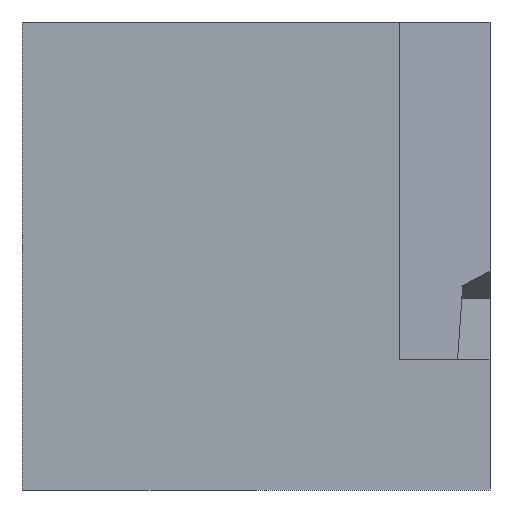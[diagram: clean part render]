
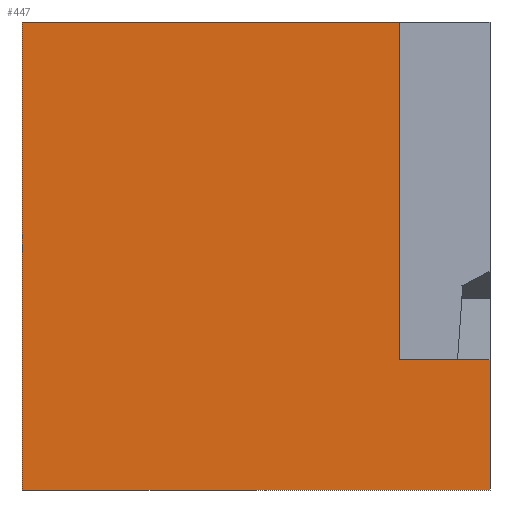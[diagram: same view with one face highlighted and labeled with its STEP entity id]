
A CAD part, left-side view. The second image highlights one B-rep face of the part: STEP entity #447.
In plain terms, the highlighted planar face has unit normal (-1, 0, 0).
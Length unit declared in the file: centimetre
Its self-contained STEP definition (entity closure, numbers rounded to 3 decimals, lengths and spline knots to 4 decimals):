
#40 = CARTESIAN_POINT ( 'NONE',  ( 0., 0., 1000. ) ) ;
#63 = LINE ( 'NONE', #368, #369 ) ;
#68 = EDGE_CURVE ( 'NONE', #74, #269, #209, .T. ) ;
#74 = VERTEX_POINT ( 'NONE', #550 ) ;
#78 = VERTEX_POINT ( 'NONE', #217 ) ;
#146 = CARTESIAN_POINT ( 'NONE',  ( 0., 1000., 0. ) ) ;
#159 = DIRECTION ( 'NONE',  ( 0., 0., -1. ) ) ;
#180 = DIRECTION ( 'NONE',  ( 0., 0., -1. ) ) ;
#185 = VECTOR ( 'NONE', #159, 100. ) ;
#186 = EDGE_LOOP ( 'NONE', ( #403, #360, #576, #194, #577, #236 ) ) ;
#188 = LINE ( 'NONE', #470, #388 ) ;
#194 = ORIENTED_EDGE ( 'NONE', *, *, #418, .T. ) ;
#209 = LINE ( 'NONE', #40, #185 ) ;
#217 = CARTESIAN_POINT ( 'NONE',  ( 0., 1000., 1000. ) ) ;
#236 = ORIENTED_EDGE ( 'NONE', *, *, #68, .F. ) ;
#238 = LINE ( 'NONE', #451, #318 ) ;
#259 = EDGE_CURVE ( 'NONE', #78, #516, #238, .T. ) ;
#261 = FACE_OUTER_BOUND ( 'NONE', #186, .T. ) ;
#269 = VERTEX_POINT ( 'NONE', #687 ) ;
#297 = VERTEX_POINT ( 'NONE', #638 ) ;
#309 = CARTESIAN_POINT ( 'NONE',  ( 0., 1000., 1000. ) ) ;
#310 = EDGE_CURVE ( 'NONE', #297, #516, #188, .T. ) ;
#318 = VECTOR ( 'NONE', #678, 100. ) ;
#360 = ORIENTED_EDGE ( 'NONE', *, *, #310, .T. ) ;
#368 = CARTESIAN_POINT ( 'NONE',  ( 0., 1000., 0. ) ) ;
#369 = VECTOR ( 'NONE', #594, 100. ) ;
#377 = VECTOR ( 'NONE', #625, 100. ) ;
#388 = VECTOR ( 'NONE', #521, 100. ) ;
#399 = VERTEX_POINT ( 'NONE', #146 ) ;
#401 = CARTESIAN_POINT ( 'NONE',  ( 0., 193.7199, 1000. ) ) ;
#403 = ORIENTED_EDGE ( 'NONE', *, *, #720, .F. ) ;
#407 = EDGE_CURVE ( 'NONE', #399, #269, #63, .T. ) ;
#418 = EDGE_CURVE ( 'NONE', #78, #399, #458, .T. ) ;
#427 = CARTESIAN_POINT ( 'NONE',  ( 0., 0., 277.8744 ) ) ;
#428 = CARTESIAN_POINT ( 'NONE',  ( 0., 1000., 1000. ) ) ;
#447 = ADVANCED_FACE ( 'NONE', ( #261 ), #684, .F. ) ;
#451 = CARTESIAN_POINT ( 'NONE',  ( 0., 1000., 1000. ) ) ;
#458 = LINE ( 'NONE', #309, #377 ) ;
#470 = CARTESIAN_POINT ( 'NONE',  ( 0., 193.7199, 277.8744 ) ) ;
#516 = VERTEX_POINT ( 'NONE', #401 ) ;
#521 = DIRECTION ( 'NONE',  ( 0., 0., 1. ) ) ;
#543 = LINE ( 'NONE', #427, #561 ) ;
#550 = CARTESIAN_POINT ( 'NONE',  ( 0., 0., 277.8744 ) ) ;
#561 = VECTOR ( 'NONE', #712, 100. ) ;
#576 = ORIENTED_EDGE ( 'NONE', *, *, #259, .F. ) ;
#577 = ORIENTED_EDGE ( 'NONE', *, *, #407, .T. ) ;
#594 = DIRECTION ( 'NONE',  ( 0., -1., 0. ) ) ;
#625 = DIRECTION ( 'NONE',  ( 0., 0., -1. ) ) ;
#635 = AXIS2_PLACEMENT_3D ( 'NONE', #428, #653, #180 ) ;
#638 = CARTESIAN_POINT ( 'NONE',  ( 0., 193.7199, 277.8744 ) ) ;
#653 = DIRECTION ( 'NONE',  ( 1., 0., 0. ) ) ;
#678 = DIRECTION ( 'NONE',  ( 0., -1., 0. ) ) ;
#684 = PLANE ( 'NONE',  #635 ) ;
#687 = CARTESIAN_POINT ( 'NONE',  ( 0., 0., 0. ) ) ;
#712 = DIRECTION ( 'NONE',  ( 0., -1., 0. ) ) ;
#720 = EDGE_CURVE ( 'NONE', #297, #74, #543, .T. ) ;
